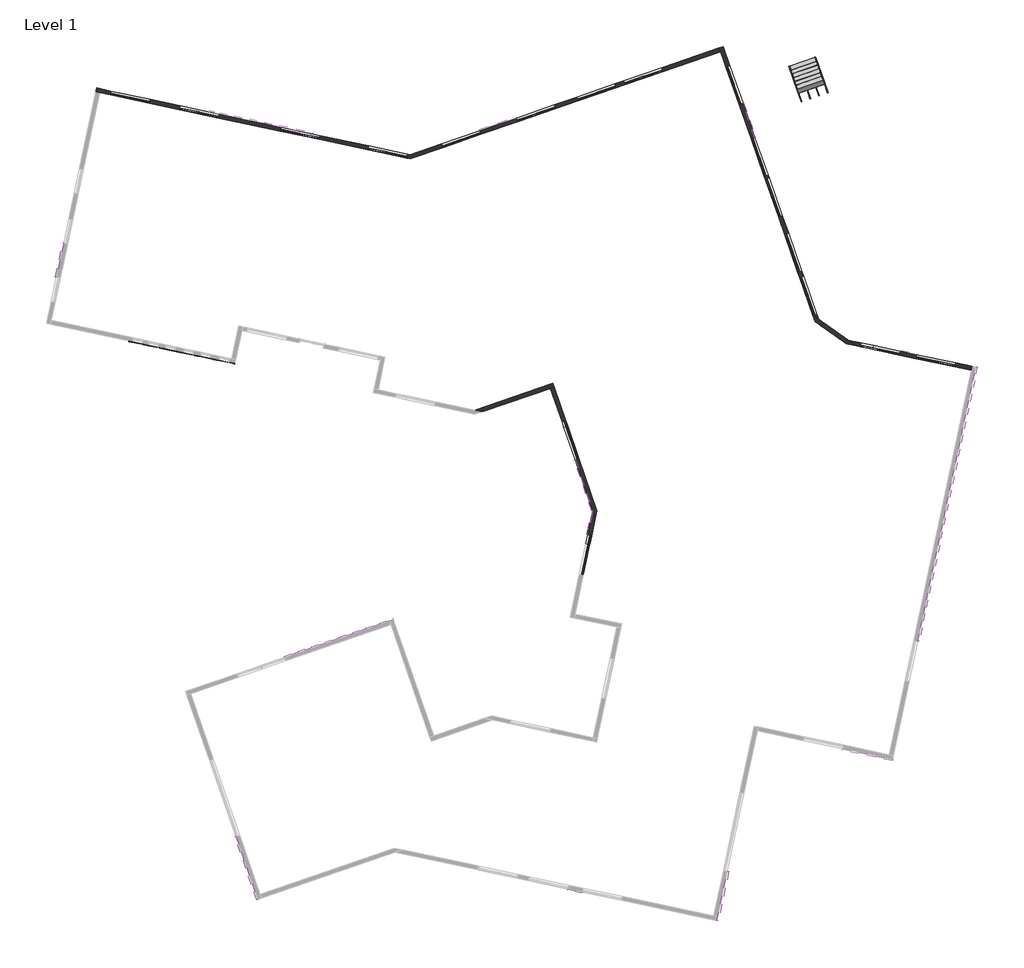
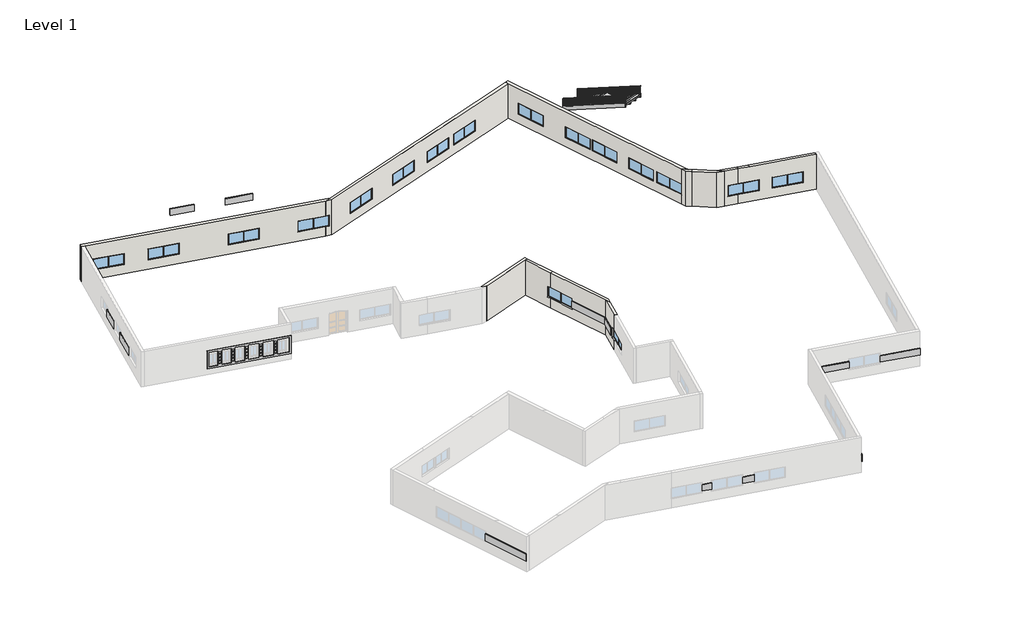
# One storey, part 2 of 2: 17 windows, 14 proxies, 11 walls, 4 members, 2 railings, 1 stair flight.
"""IFC4 building model written with IfcOpenShell, lengths in millimetres."""

from ifc_helpers import new_model, si_unit, frame, origin, place, context, project, spatial, polyline, outline, extrude, faceted_brep, transform, mapped, element, save
from components import generic_models_11_generic_models_11_6183a3db, generic_models_12_generic_models_12_c4f2799b, generic_models_15_generic_models_15_6c7800a2, generic_models_16_generic_models_16_a599c295, generic_models_18_generic_models_18_185bfeaa, generic_models_19_generic_models_19_e8d40234, generic_models_20_generic_models_20_587b93e4, generic_models_23_generic_models_23_e55d72dc, generic_models_24_generic_models_24_6f69fc4d, generic_models_25_generic_models_25_63c2ee15, generic_models_26_generic_models_26_2b0313ee, generic_models_27_generic_models_27_2a54866c, generic_models_28_generic_models_28_ffc0cb9e, generic_models_29_generic_models_29_9aea2b4d, railing_900mm_441bb158, railing_900mm_f19e5628, stair_flight_a10bc733, aluminum_exterior_window_2_wide_3886_1d34d12d

model = new_model("IFC4")

# Units and contexts
model_context = context("Model", 3, world=origin())
ifc_project = project(units=[si_unit("LENGTHUNIT", "METRE", prefix="MILLI")], contexts=[model_context])

# Site, building, storey
site = spatial("IfcSite", under=ifc_project)
building = spatial("IfcBuilding", under=site)
storey = spatial("IfcBuildingStorey", under=building, Name="Level 1", Elevation=0.0)

# Proxies
placement = place(None, origin())
generic_models_11_generic_models_11_shape = generic_models_11_generic_models_11_6183a3db(model_context)
element("IfcBuildingElementProxy", 1, Name="Generic Models 11 : Generic Models 11", ObjectType="Generic Models 11 : Generic Models 11", at=placement, inside=storey, context=model_context, shape_type="MappedRepresentation", body=[
    mapped(generic_models_11_generic_models_11_shape, transform((0.0, 0.0, 0.0), x_axis=(1.0, 0.0, 0.0), y_axis=(0.0, 1.0, 0.0), z_axis=(0.0, 0.0, 1.0))),
])
generic_models_12_generic_models_12_shape = generic_models_12_generic_models_12_c4f2799b(model_context)
element("IfcBuildingElementProxy", 2, Name="Generic Models 12 : Generic Models 12", ObjectType="Generic Models 12 : Generic Models 12", at=placement, inside=storey, context=model_context, shape_type="MappedRepresentation", body=[
    mapped(generic_models_12_generic_models_12_shape, transform((0.0, 0.0, 0.0), x_axis=(1.0, 0.0, 0.0), y_axis=(0.0, 1.0, 0.0), z_axis=(0.0, 0.0, 1.0))),
])
generic_models_15_generic_models_15_shape = generic_models_15_generic_models_15_6c7800a2(model_context)
element("IfcBuildingElementProxy", 3, Name="Generic Models 15 : Generic Models 15", ObjectType="Generic Models 15 : Generic Models 15", at=placement, inside=storey, context=model_context, shape_type="MappedRepresentation", body=[
    mapped(generic_models_15_generic_models_15_shape, transform((0.0, 0.0, 0.0), x_axis=(1.0, 0.0, 0.0), y_axis=(0.0, 1.0, 0.0), z_axis=(0.0, 0.0, 1.0))),
])
generic_models_16_generic_models_16_shape = generic_models_16_generic_models_16_a599c295(model_context)
element("IfcBuildingElementProxy", 4, Name="Generic Models 16 : Generic Models 16", ObjectType="Generic Models 16 : Generic Models 16", at=placement, inside=storey, context=model_context, shape_type="MappedRepresentation", body=[
    mapped(generic_models_16_generic_models_16_shape, transform((0.0, 0.0, 0.0), x_axis=(1.0, 0.0, 0.0), y_axis=(0.0, 1.0, 0.0), z_axis=(0.0, 0.0, 1.0))),
])
generic_models_18_generic_models_18_shape = generic_models_18_generic_models_18_185bfeaa(model_context)
element("IfcBuildingElementProxy", 5, Name="Generic Models 18 : Generic Models 18", ObjectType="Generic Models 18 : Generic Models 18", at=placement, inside=storey, context=model_context, shape_type="MappedRepresentation", body=[
    mapped(generic_models_18_generic_models_18_shape, transform((0.0, 0.0, 0.0), x_axis=(1.0, 0.0, 0.0), y_axis=(0.0, 1.0, 0.0), z_axis=(0.0, 0.0, 1.0))),
])
generic_models_19_generic_models_19_shape = generic_models_19_generic_models_19_e8d40234(model_context)
element("IfcBuildingElementProxy", 6, Name="Generic Models 19 : Generic Models 19", ObjectType="Generic Models 19 : Generic Models 19", at=placement, inside=storey, context=model_context, shape_type="MappedRepresentation", body=[
    mapped(generic_models_19_generic_models_19_shape, transform((0.0, 0.0, 0.0), x_axis=(1.0, 0.0, 0.0), y_axis=(0.0, 1.0, 0.0), z_axis=(0.0, 0.0, 1.0))),
])
generic_models_20_generic_models_20_shape = generic_models_20_generic_models_20_587b93e4(model_context)
element("IfcBuildingElementProxy", 7, Name="Generic Models 20 : Generic Models 20", ObjectType="Generic Models 20 : Generic Models 20", at=placement, inside=storey, context=model_context, shape_type="MappedRepresentation", body=[
    mapped(generic_models_20_generic_models_20_shape, transform((0.0, 0.0, 0.0), x_axis=(1.0, 0.0, 0.0), y_axis=(0.0, 1.0, 0.0), z_axis=(0.0, 0.0, 1.0))),
])
generic_models_23_generic_models_23_shape = generic_models_23_generic_models_23_e55d72dc(model_context)
element("IfcBuildingElementProxy", 8, Name="Generic Models 23 : Generic Models 23", ObjectType="Generic Models 23 : Generic Models 23", at=placement, inside=storey, context=model_context, shape_type="MappedRepresentation", body=[
    mapped(generic_models_23_generic_models_23_shape, transform((0.0, 0.0, 0.0), x_axis=(1.0, 0.0, 0.0), y_axis=(0.0, 1.0, 0.0), z_axis=(0.0, 0.0, 1.0))),
])
generic_models_24_generic_models_24_shape = generic_models_24_generic_models_24_6f69fc4d(model_context)
element("IfcBuildingElementProxy", 9, Name="Generic Models 24 : Generic Models 24", ObjectType="Generic Models 24 : Generic Models 24", at=placement, inside=storey, context=model_context, shape_type="MappedRepresentation", body=[
    mapped(generic_models_24_generic_models_24_shape, transform((0.0, 0.0, 0.0), x_axis=(1.0, 0.0, 0.0), y_axis=(0.0, 1.0, 0.0), z_axis=(0.0, 0.0, 1.0))),
])
generic_models_25_generic_models_25_shape = generic_models_25_generic_models_25_63c2ee15(model_context)
element("IfcBuildingElementProxy", 10, Name="Generic Models 25 : Generic Models 25", ObjectType="Generic Models 25 : Generic Models 25", at=placement, inside=storey, context=model_context, shape_type="MappedRepresentation", body=[
    mapped(generic_models_25_generic_models_25_shape, transform((0.0, 0.0, 0.0), x_axis=(1.0, 0.0, 0.0), y_axis=(0.0, 1.0, 0.0), z_axis=(0.0, 0.0, 1.0))),
])
generic_models_26_generic_models_26_shape = generic_models_26_generic_models_26_2b0313ee(model_context)
element("IfcBuildingElementProxy", 11, Name="Generic Models 26 : Generic Models 26", ObjectType="Generic Models 26 : Generic Models 26", at=placement, inside=storey, context=model_context, shape_type="MappedRepresentation", body=[
    mapped(generic_models_26_generic_models_26_shape, transform((0.0, 0.0, 0.0), x_axis=(1.0, 0.0, 0.0), y_axis=(0.0, 1.0, 0.0), z_axis=(0.0, 0.0, 1.0))),
])
generic_models_27_generic_models_27_shape = generic_models_27_generic_models_27_2a54866c(model_context)
element("IfcBuildingElementProxy", 12, Name="Generic Models 27 : Generic Models 27", ObjectType="Generic Models 27 : Generic Models 27", at=placement, inside=storey, context=model_context, shape_type="MappedRepresentation", body=[
    mapped(generic_models_27_generic_models_27_shape, transform((0.0, 0.0, 0.0), x_axis=(1.0, 0.0, 0.0), y_axis=(0.0, 1.0, 0.0), z_axis=(0.0, 0.0, 1.0))),
])
generic_models_28_generic_models_28_shape = generic_models_28_generic_models_28_ffc0cb9e(model_context)
element("IfcBuildingElementProxy", 13, Name="Generic Models 28 : Generic Models 28", ObjectType="Generic Models 28 : Generic Models 28", at=placement, inside=storey, context=model_context, shape_type="MappedRepresentation", body=[
    mapped(generic_models_28_generic_models_28_shape, transform((0.0, 0.0, 0.0), x_axis=(1.0, 0.0, 0.0), y_axis=(0.0, 1.0, 0.0), z_axis=(0.0, 0.0, 1.0))),
])
generic_models_29_generic_models_29_shape = generic_models_29_generic_models_29_9aea2b4d(model_context)
element("IfcBuildingElementProxy", 14, Name="Generic Models 29 : Generic Models 29", ObjectType="Generic Models 29 : Generic Models 29", at=placement, inside=storey, context=model_context, shape_type="MappedRepresentation", body=[
    mapped(generic_models_29_generic_models_29_shape, transform((0.0, 0.0, 0.0), x_axis=(1.0, 0.0, 0.0), y_axis=(0.0, 1.0, 0.0), z_axis=(0.0, 0.0, 1.0))),
])

# Members
element("IfcMember", 15, ObjectType="Stringer - Miscellaneous - 50 mm Width", at=placement, inside=storey, context=model_context, shape_type="SweptSolid", body=[
    extrude(outline(polyline([(201.242236, -399.9999999), (94.9866789, -188.8006828), (470.2571721, 0.0), (8507.6398583, 1e-07), (8708.8820944, -400.0), (201.242236, -399.9999999)])), frame((503083.952867, 37397.2472777, -211.3484493), z_axis=(0.9452094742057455, 0.32646446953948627, 0.0), x_axis=(0.2916355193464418, -0.8443695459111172, 0.4494316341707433)), (0.0, 0.0, 1.0), 50.0),
])
element("IfcMember", 16, ObjectType="Stringer - Miscellaneous - 50 mm Width", at=placement, inside=storey, context=model_context, shape_type="SweptSolid", body=[
    extrude(outline(polyline([(201.242236, -399.9999999), (94.9866789, -188.8006828), (470.257172, 0.0), (8507.6398583, 0.0), (8708.8820943, -400.0), (201.242236, -399.9999999)])), frame((501110.4189282, 36715.6113778, -211.3484493), z_axis=(0.9452094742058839, 0.3264644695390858, 0.0), x_axis=(0.2916355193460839, -0.8443695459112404, 0.4494316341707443)), (0.0, 0.0, 1.0), 50.0),
])
element("IfcMember", 17, ObjectType="Carriage - Miscellaneous - 50 mm Width", at=placement, inside=storey, context=model_context, shape_type="SweptSolid", body=[
    extrude(outline(polyline([(2306.5382459, -400.0), (2252.5909255, -400.0), (2184.3486311, -264.3579085), (1916.3542121, -399.1873987), (1837.2151635, -241.8863268), (1569.2207447, -376.715817), (1490.0816961, -219.4147451), (1222.0872771, -354.2442354), (1142.9482285, -196.9431634), (874.9538096, -331.7726537), (795.8147609, -174.4715817), (527.8203421, -309.3010719), (448.6812935, -151.9999999), (180.6868745, -286.8294902), (124.0194076, -174.1941548), (470.2571721, 0.0), (5452.3951983, 0.0), (4657.3334699, -400.0), (4267.5582604, -399.9999999), (4267.1494363, -399.1873988), (4265.5342659, -400.0), (3931.7303713, -400.0), (3920.0159687, -376.715817), (3873.7350619, -399.9999999), (3595.9024821, -400.0), (3572.8825011, -354.2442353), (3481.9358579, -399.9999999), (3260.074593, -400.0), (3225.7490337, -331.7726536), (3090.1366539, -400.0), (2924.2467038, -399.9999999), (2878.6155661, -309.301072), (2698.3374498, -400.0), (2588.4188146, -400.0), (2531.4820986, -286.8294903), (2306.5382459, -400.0)])), frame((501776.1403201, 36945.5438817, -211.3484493), z_axis=(0.9452094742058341, 0.32646446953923, 0.0), x_axis=(0.29163551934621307, -0.8443695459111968, 0.44943163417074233)), (0.0, 0.0, 1.0), 50.0),
    extrude(outline(polyline([(8507.6398583, 1e-07), (8602.7661124, -189.0781098), (8363.8044222, -309.3010719), (8284.6653735, -152.0), (8016.6709547, -286.8294902), (7937.531906, -129.5284182), (7669.5374871, -264.3579085), (7590.3984385, -107.0568365), (7322.4040196, -241.8863268), (7243.2649709, -84.5852549), (6975.2705521, -219.4147451), (6896.1315035, -62.1136732), (6628.1370845, -196.9431634), (6548.9980359, -39.6420914), (6281.003617, -174.4715817), (6201.8645683, -17.1705097), (5933.8701495, -151.9999999), (5857.3980998, 0.0), (8507.6398583, 1e-07)])), frame((501776.1403201, 36945.5438817, -211.3484493), z_axis=(0.9452094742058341, 0.32646446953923, 0.0), x_axis=(0.29163551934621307, -0.8443695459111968, 0.44943163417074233)), (0.0, 0.0, 1.0), 50.0),
    extrude(outline(polyline([(5521.5702106, 1e-07), (5844.1944023, 0.0), (5586.736682, -129.5284183), (5521.5702106, 1e-07)])), frame((501776.1403201, 36945.5438817, -211.3484493), z_axis=(0.9452094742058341, 0.32646446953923, 0.0), x_axis=(0.29163551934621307, -0.8443695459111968, 0.44943163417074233)), (0.0, 0.0, 1.0), 50.0),
])
element("IfcMember", 18, ObjectType="Carriage - Miscellaneous - 50 mm Width", at=placement, inside=storey, context=model_context, shape_type="SweptSolid", body=[
    extrude(outline(polyline([(2306.5382459, -400.0), (2252.5909255, -400.0), (2184.3486311, -264.3579085), (1916.3542122, -399.1873987), (1837.2151635, -241.8863268), (1569.2207447, -376.715817), (1490.0816961, -219.4147451), (1222.0872771, -354.2442354), (1142.9482285, -196.9431634), (874.9538096, -331.7726537), (795.8147609, -174.4715816), (527.8203421, -309.3010719), (448.6812935, -151.9999999), (180.6868746, -286.8294902), (124.0194077, -174.1941547), (470.2571721, 0.0), (5452.3951983, 0.0), (4657.3334699, -400.0), (4267.5582604, -400.0), (4267.1494362, -399.1873988), (4265.5342659, -400.0), (3931.7303713, -400.0), (3920.0159687, -376.715817), (3873.7350619, -399.9999999), (3595.9024821, -400.0), (3572.8825011, -354.2442353), (3481.9358579, -399.9999999), (3260.074593, -400.0), (3225.7490337, -331.7726536), (3090.1366539, -400.0), (2924.2467038, -399.9999999), (2878.6155661, -309.301072), (2698.3374498, -400.0), (2588.4188146, -400.0), (2531.4820986, -286.8294903), (2306.5382459, -400.0)])), frame((502418.2314751, 37167.3147738, -211.3484493), z_axis=(0.9452094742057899, 0.3264644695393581, 0.0), x_axis=(0.2916355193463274, -0.8443695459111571, 0.4494316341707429)), (0.0, 0.0, 1.0), 50.0),
    extrude(outline(polyline([(8507.6398583, 1e-07), (8602.7661124, -189.0781098), (8363.8044222, -309.3010719), (8284.6653735, -152.0), (8016.6709546, -286.8294903), (7937.5319059, -129.5284183), (7669.5374871, -264.3579085), (7590.3984385, -107.0568365), (7322.4040196, -241.8863268), (7243.2649709, -84.5852549), (6975.2705521, -219.4147451), (6896.1315035, -62.1136732), (6628.1370846, -196.9431634), (6548.9980359, -39.6420914), (6281.003617, -174.4715817), (6201.8645683, -17.1705097), (5933.8701495, -151.9999999), (5857.3980999, 0.0), (8507.6398583, 1e-07)])), frame((502418.2314751, 37167.3147738, -211.3484493), z_axis=(0.9452094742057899, 0.3264644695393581, 0.0), x_axis=(0.2916355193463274, -0.8443695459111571, 0.4494316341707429)), (0.0, 0.0, 1.0), 50.0),
    extrude(outline(polyline([(5521.5702106, 1e-07), (5844.1944023, 0.0), (5586.736682, -129.5284183), (5521.5702106, 1e-07)])), frame((502418.2314751, 37167.3147738, -211.3484493), z_axis=(0.9452094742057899, 0.3264644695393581, 0.0), x_axis=(0.2916355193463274, -0.8443695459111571, 0.4494316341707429)), (0.0, 0.0, 1.0), 50.0),
])

# Railings
railing_900mm_shape = railing_900mm_441bb158(model_context)
element("IfcRailing", 19, ObjectType="900mm", at=placement, inside=storey, context=model_context, shape_type="MappedRepresentation", body=[
    mapped(railing_900mm_shape, transform((0.0, 0.0, 0.0), x_axis=(1.0, 0.0, 0.0), y_axis=(0.0, 1.0, 0.0), z_axis=(0.0, 0.0, 1.0))),
])
railing_900mm_2_shape = railing_900mm_f19e5628(model_context)
element("IfcRailing", 20, ObjectType="900mm", at=placement, inside=storey, context=model_context, shape_type="MappedRepresentation", body=[
    mapped(railing_900mm_2_shape, transform((0.0, 0.0, 0.0), x_axis=(1.0, 0.0, 0.0), y_axis=(0.0, 1.0, 0.0), z_axis=(0.0, 0.0, 1.0))),
])

# Stair flight
stair_flight_shape = stair_flight_a10bc733(model_context)
element("IfcStairFlight", 21, ObjectType="Wood Steps with 50 mm Tread 20 mm Nosing 13 mm Riser", at=placement, inside=storey, context=model_context, shape_type="MappedRepresentation", body=[
    mapped(stair_flight_shape, transform((0.0, 0.0, 0.0), x_axis=(1.0, 0.0, 0.0), y_axis=(0.0, 1.0, 0.0), z_axis=(0.0, 0.0, 1.0))),
])

# Walls
element("IfcWall", 22, ObjectType="0.3", at=placement, inside=storey, context=model_context, shape_type="Brep", body=[
    faceted_brep([(483465.5074474, 13018.4815424, 0.0), (477610.7570269, 10996.318157, 0.0), (477610.7570269, 10996.318157, 3900.0), (483465.5074474, 13018.4815424, 3900.0), (483563.4467882, 12734.9187002, 0.0), (483563.4467882, 12734.9187002, 3900.0), (483279.883946, 12636.9793593, 3900.0), (478179.6122647, 10875.4042435, 3900.0), (478179.6122647, 10875.4042435, 0.0), (483279.883946, 12636.9793593, 0.0)], [[[0, 1, 2, 3]], [[4, 5, 6, 7, 8, 9]], [[1, 0, 4, 9, 8]], [[2, 1, 8, 7]], [[0, 3, 5, 4]], [[3, 2, 7, 6, 5]]]),
])
element("IfcWall", 23, ObjectType="0.3", at=placement, inside=storey, context=model_context, shape_type="SweptSolid", body=[
    extrude(outline(polyline([(0.0, 0.0), (3059.5079287, 0.0), (3059.5079287, -1016.0), (2651.8643064, -1016.0), (2651.8643064, -2235.2), (3059.5079287, -2235.2), (3059.5079287, -3900.0), (0.0, -3900.0), (0.0, 0.0)])), frame((483279.883946, 12636.9793593, 0.0), z_axis=(0.9452094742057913, 0.3264644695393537, 0.0), x_axis=(0.3264644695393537, -0.9452094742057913, 0.0)), (0.0, 0.0, 1.0), 300.0),
])
element("IfcWall", 24, ObjectType="0.3", at=placement, inside=storey, context=model_context, shape_type="Brep", body=[
    faceted_brep([(486760.764421, 3477.7553622, 0.0), (484562.2674212, 9843.0428196, 0.0), (484562.2674212, 9843.0428196, 1016.0), (485408.5796709, 7392.7230108, 1016.0), (485408.5796709, 7392.7230108, 2235.2), (484562.2674212, 9843.0428196, 2235.2), (484562.2674212, 9843.0428196, 3900.0), (486760.764421, 3477.7553622, 3900.0), (484278.7045789, 9745.1034787, 0.0), (486449.9905894, 3458.5997401, 0.0), (486639.8505076, 2908.9001244, 0.0), (486639.8505076, 2908.9001244, 3900.0), (486449.9905894, 3458.5997401, 3900.0), (484278.7045789, 9745.1034787, 3900.0), (484278.7045789, 9745.1034787, 2235.2), (485125.0168287, 7294.78367, 2235.2), (485125.0168287, 7294.78367, 1016.0), (484278.7045789, 9745.1034787, 1016.0)], [[[0, 1, 2, 3, 4, 5, 6, 7]], [[8, 9, 10, 11, 12, 13, 14, 15, 16, 17]], [[1, 0, 10, 9, 8]], [[1, 8, 17, 2]], [[13, 6, 5, 14]], [[0, 7, 11, 10]], [[11, 7, 6, 13, 12]], [[15, 4, 3, 16]], [[16, 3, 2, 17]], [[4, 15, 14, 5]]]),
])
element("IfcWall", 25, ObjectType="0.3", at=placement, inside=storey, context=model_context, shape_type="Brep", body=[
    faceted_brep([(486220.9153335, 937.9650907, 0.0), (486639.8505076, 2908.9001244, 0.0), (486639.8505076, 2908.9001244, 3900.0), (486220.9153335, 937.9650907, 3900.0), (486220.9153335, 937.9650907, 2235.2), (486365.7207347, 1619.2209412, 2235.2), (486365.7207347, 1619.2209412, 1016.0), (486220.9153335, 937.9650907, 1016.0), (486449.9905894, 3458.5997401, 0.0), (485927.4710533, 1000.338598, 0.0), (485927.4710533, 1000.338598, 1016.0), (486072.2764545, 1681.5944484, 1016.0), (486072.2764545, 1681.5944484, 2235.2), (485927.4710533, 1000.338598, 2235.2), (485927.4710533, 1000.338598, 3900.0), (486449.9905894, 3458.5997401, 3900.0)], [[[0, 1, 2, 3, 4, 5, 6, 7]], [[8, 9, 10, 11, 12, 13, 14, 15]], [[1, 0, 9, 8]], [[9, 0, 7, 10]], [[3, 14, 13, 4]], [[2, 1, 8, 15]], [[3, 2, 15, 14]], [[6, 11, 10, 7]], [[11, 6, 5, 12]], [[12, 5, 4, 13]]]),
])
element("IfcWall", 26, ObjectType="0.3", at=placement, inside=storey, context=model_context, shape_type="Brep", body=[
    faceted_brep([(507378.3487578, 15550.0641243, 0.0), (514754.395508, 13982.2369884, 0.0), (514754.395508, 13982.2369884, 3900.0), (508560.4360348, 15298.8037171, 3900.0), (507378.3487578, 15550.0641243, 3900.0), (507378.3487578, 15550.0641243, 2235.2), (509374.5837039, 15125.7512879, 2235.2), (509374.5837039, 15125.7512879, 1016.0), (507378.3487578, 15550.0641243, 1016.0), (510597.2682048, 14865.8616744, 2235.2), (513531.711007, 14242.1266019, 2235.2), (513531.711007, 14242.1266019, 1016.0), (510597.2682048, 14865.8616744, 1016.0), (514816.7690152, 14275.6812686, 0.0), (507440.7222651, 15843.5084045, 0.0), (507440.7222651, 15843.5084045, 1016.0), (509436.9572112, 15419.1955681, 1016.0), (509436.9572112, 15419.1955681, 2235.2), (507440.7222651, 15843.5084045, 2235.2), (507440.7222651, 15843.5084045, 3900.0), (508446.1115484, 15629.8063153, 3900.0), (514816.7690152, 14275.6812686, 3900.0), (510659.6417121, 15159.3059546, 2235.2), (510659.6417121, 15159.3059546, 1016.0), (513594.0845143, 14535.5708821, 1016.0), (513594.0845143, 14535.5708821, 2235.2)], [[[0, 1, 2, 3, 4, 5, 6, 7, 8], [9, 10, 11, 12]], [[13, 14, 15, 16, 17, 18, 19, 20, 21], [22, 23, 24, 25]], [[1, 0, 14, 13]], [[14, 0, 8, 15]], [[4, 19, 18, 5]], [[2, 1, 13, 21]], [[7, 16, 15, 8]], [[16, 7, 6, 17]], [[17, 6, 5, 18]], [[23, 22, 9, 12]], [[24, 23, 12, 11]], [[25, 24, 11, 10]], [[22, 25, 10, 9]], [[2, 21, 20, 3]], [[19, 4, 3, 20]]]),
])
element("IfcWall", 27, ObjectType="0.3", at=placement, inside=storey, context=model_context, shape_type="Brep", body=[
    faceted_brep([(506154.0710443, 15810.2923856, 0.0), (507378.3487578, 15550.0641243, 0.0), (507378.3487578, 15550.0641243, 1016.0), (506440.1409017, 15749.4863603, 1016.0), (506440.1409017, 15749.4863603, 2235.2), (507378.3487578, 15550.0641243, 2235.2), (507378.3487578, 15550.0641243, 3900.0), (506154.0710443, 15810.2923856, 3900.0), (507440.7222651, 15843.5084045, 0.0), (505534.6529907, 16248.6559358, 0.0), (505534.6529907, 16248.6559358, 3900.0), (507440.7222651, 15843.5084045, 3900.0), (507440.7222651, 15843.5084045, 2235.2), (506502.514409, 16042.9306406, 2235.2), (506502.514409, 16042.9306406, 1016.0), (507440.7222651, 15843.5084045, 1016.0)], [[[0, 1, 2, 3, 4, 5, 6, 7]], [[8, 9, 10, 11, 12, 13, 14, 15]], [[1, 0, 9, 8]], [[1, 8, 15, 2]], [[11, 6, 5, 12]], [[0, 7, 10, 9]], [[7, 6, 11, 10]], [[13, 4, 3, 14]], [[14, 3, 2, 15]], [[4, 13, 12, 5]]]),
])
element("IfcWall", 28, ObjectType="0.3", at=placement, inside=storey, context=model_context, shape_type="Brep", body=[
    faceted_brep([(503507.7675496, 17315.5606942, 0.0), (505411.8114684, 15968.0645289, 0.0), (505411.8114684, 15968.0645289, 3900.0), (503507.7675496, 17315.5606942, 3900.0), (503336.7536813, 17804.1142221, 0.0), (503336.7536813, 17804.1142221, 3900.0), (505534.6529907, 16248.6559358, 3900.0), (506154.0710443, 15810.2923856, 3900.0), (506154.0710443, 15810.2923856, 0.0), (505534.6529907, 16248.6559358, 0.0)], [[[0, 1, 2, 3]], [[4, 5, 6, 7, 8, 9]], [[1, 0, 4, 9, 8]], [[2, 1, 8, 7]], [[0, 3, 5, 4]], [[3, 2, 7, 6, 5]]]),
])
element("IfcWall", 29, ObjectType="0.3", at=placement, inside=storey, context=model_context, shape_type="Brep", body=[
    faceted_brep([(503085.2513611, 17614.5763514, 0.0), (503513.4465332, 17311.5416647, 0.0), (503513.4465332, 17311.5416647, 3900.0), (503085.2513611, 17614.5763514, 3900.0), (503686.7488127, 17556.4218802, 0.0), (503336.7536813, 17804.1142221, 0.0), (502914.2374928, 18103.1298793, 0.0), (502914.2374928, 18103.1298793, 1016.0), (502930.6468326, 18091.5169526, 1016.0), (502930.6468326, 18091.5169526, 2235.2), (502914.2374928, 18103.1298793, 2235.2), (502914.2374928, 18103.1298793, 3900.0), (503336.7536813, 17804.1142221, 3900.0), (503686.7488127, 17556.4218802, 3900.0), (502919.6499332, 18087.6675847, 2235.2), (502919.6499332, 18087.6675847, 1016.0)], [[[0, 1, 2, 3]], [[4, 5, 6, 7, 8, 9, 10, 11, 12, 13]], [[1, 0, 6, 5, 4]], [[2, 1, 4, 13]], [[0, 3, 11, 10, 14, 15, 7, 6]], [[3, 2, 13, 12, 11]], [[15, 8, 7]], [[8, 15, 14, 9]], [[9, 14, 10]]]),
])
element("IfcWall", 30, ObjectType="0.3", at=placement, inside=storey, context=model_context, shape_type="Brep", body=[
    faceted_brep([(495911.4257826, 38108.8077884, 0.0), (496010.5421593, 37825.6514807, 0.0), (502914.2374928, 18103.1298793, 0.0), (502914.2374928, 18103.1298793, 1016.0), (501928.4947052, 20919.2062678, 1016.0), (501928.4947052, 20919.2062678, 2235.2), (502914.2374928, 18103.1298793, 2235.2), (502914.2374928, 18103.1298793, 3900.0), (496010.5421593, 37825.6514807, 3900.0), (495911.4257826, 38108.8077884, 3900.0), (496411.0639363, 36681.4382706, 2235.2), (497402.2191643, 33849.8995875, 2235.2), (497402.2191643, 33849.8995875, 1016.0), (496411.0639363, 36681.4382706, 1016.0), (498294.2588694, 31301.5147726, 2235.2), (499285.4140974, 28469.9760895, 2235.2), (499285.4140974, 28469.9760895, 1016.0), (498294.2588694, 31301.5147726, 1016.0), (499351.4911126, 28281.206844, 2235.2), (500342.6463405, 25449.6681608, 2235.2), (500342.6463405, 25449.6681608, 1016.0), (499351.4911126, 28281.206844, 1016.0), (500805.1854469, 24128.283442, 2235.2), (501796.3406748, 21296.7447589, 2235.2), (501796.3406748, 21296.7447589, 1016.0), (500805.1854469, 24128.283442, 1016.0), (503336.7536813, 17804.1142221, 0.0), (496194.9910677, 38206.747973, 0.0), (496194.9910677, 38206.747973, 3900.0), (503336.7536813, 17804.1142221, 3900.0), (496694.2178046, 36780.5537934, 2235.2), (496694.2178046, 36780.5537934, 1016.0), (497685.3730326, 33949.0151103, 1016.0), (497685.3730326, 33949.0151103, 2235.2), (498577.4127377, 31400.6302954, 2235.2), (498577.4127377, 31400.6302954, 1016.0), (499568.5679657, 28569.0916123, 1016.0), (499568.5679657, 28569.0916123, 2235.2), (499634.6449809, 28380.3223667, 2235.2), (499634.6449809, 28380.3223667, 1016.0), (500625.8002088, 25548.7836836, 1016.0), (500625.8002088, 25548.7836836, 2235.2), (501088.3393152, 24227.3989648, 2235.2), (501088.3393152, 24227.3989648, 1016.0), (502079.4945432, 21395.8602817, 1016.0), (502079.4945432, 21395.8602817, 2235.2), (502211.6485735, 21018.3217906, 2235.2), (502211.6485735, 21018.3217906, 1016.0), (503202.8038015, 18186.7831075, 1016.0), (503202.8038015, 18186.7831075, 2235.2), (502930.6468326, 18091.5169526, 2235.2), (502930.6468326, 18091.5169526, 1016.0)], [[[0, 1, 2, 3, 4, 5, 6, 7, 8, 9], [10, 11, 12, 13], [14, 15, 16, 17], [18, 19, 20, 21], [22, 23, 24, 25]], [[26, 27, 28, 29], [30, 31, 32, 33], [34, 35, 36, 37], [38, 39, 40, 41], [42, 43, 44, 45], [46, 47, 48, 49]], [[2, 1, 0, 27, 26]], [[2, 26, 29, 7, 6, 50, 51, 3]], [[0, 9, 28, 27]], [[9, 8, 7, 29, 28]], [[31, 30, 10, 13]], [[32, 31, 13, 12]], [[33, 32, 12, 11]], [[30, 33, 11, 10]], [[35, 34, 14, 17]], [[36, 35, 17, 16]], [[37, 36, 16, 15]], [[34, 37, 15, 14]], [[39, 38, 18, 21]], [[40, 39, 21, 20]], [[41, 40, 20, 19]], [[38, 41, 19, 18]], [[43, 42, 22, 25]], [[44, 43, 25, 24]], [[45, 44, 24, 23]], [[42, 45, 23, 22]], [[46, 5, 4, 47]], [[47, 4, 3, 51, 48]], [[48, 51, 50, 49]], [[5, 46, 49, 50, 6]]]),
])
element("IfcWall", 31, ObjectType="0.3", at=placement, inside=storey, context=model_context, shape_type="Brep", body=[
    faceted_brep([(472802.0140944, 29809.693103, 0.0), (496010.5421593, 37825.6514807, 0.0), (496010.5421593, 37825.6514807, 3900.0), (472802.0140944, 29809.693103, 3900.0), (475239.5630804, 30651.5944575, 2235.2), (478075.191503, 31630.9878662, 2235.2), (478075.191503, 31630.9878662, 1016.0), (475239.5630804, 30651.5944575, 1016.0), (480816.2989782, 32577.7348278, 2235.2), (483651.9274008, 33557.1282364, 2235.2), (483651.9274008, 33557.1282364, 1016.0), (480816.2989782, 32577.7348278, 1016.0), (485353.3044544, 34144.7642816, 2235.2), (488188.932877, 35124.1576902, 2235.2), (488188.932877, 35124.1576902, 1016.0), (485353.3044544, 34144.7642816, 1016.0), (488850.5795089, 35352.6828189, 2235.2), (491686.2079315, 36332.0762275, 2235.2), (491686.2079315, 36332.0762275, 1016.0), (488850.5795089, 35352.6828189, 1016.0), (495911.4257826, 38108.8077884, 0.0), (472782.8584723, 30120.4669346, 0.0), (472233.1588566, 29930.6070164, 0.0), (472233.1588566, 29930.6070164, 1016.0), (472583.3094893, 30051.5450134, 1016.0), (472583.3094893, 30051.5450134, 2235.2), (472233.1588566, 29930.6070164, 2235.2), (472233.1588566, 29930.6070164, 3900.0), (472782.8584723, 30120.4669346, 3900.0), (495911.4257826, 38108.8077884, 3900.0), (475141.6237395, 30935.1572998, 2235.2), (475141.6237395, 30935.1572998, 1016.0), (477977.2521621, 31914.5507084, 1016.0), (477977.2521621, 31914.5507084, 2235.2), (480718.3596373, 32861.2976701, 2235.2), (480718.3596373, 32861.2976701, 1016.0), (483553.9880599, 33840.6910787, 1016.0), (483553.9880599, 33840.6910787, 2235.2), (485255.3651135, 34428.3271239, 2235.2), (485255.3651135, 34428.3271239, 1016.0), (488090.9935361, 35407.7205325, 1016.0), (488090.9935361, 35407.7205325, 2235.2), (488752.6401681, 35636.2456612, 2235.2), (488752.6401681, 35636.2456612, 1016.0), (491588.2685907, 36615.6390698, 1016.0), (491588.2685907, 36615.6390698, 2235.2), (472543.5784755, 29864.6252895, 2235.2), (472543.5784755, 29864.6252895, 1016.0)], [[[0, 1, 2, 3], [4, 5, 6, 7], [8, 9, 10, 11], [12, 13, 14, 15], [16, 17, 18, 19]], [[20, 21, 22, 23, 24, 25, 26, 27, 28, 29], [30, 31, 32, 33], [34, 35, 36, 37], [38, 39, 40, 41], [42, 43, 44, 45]], [[1, 0, 22, 21, 20]], [[2, 1, 20, 29]], [[0, 3, 27, 26, 46, 47, 23, 22]], [[27, 3, 2, 29, 28]], [[47, 24, 23]], [[24, 47, 46, 25]], [[25, 46, 26]], [[31, 30, 4, 7]], [[32, 31, 7, 6]], [[33, 32, 6, 5]], [[30, 33, 5, 4]], [[35, 34, 8, 11]], [[36, 35, 11, 10]], [[37, 36, 10, 9]], [[34, 37, 9, 8]], [[39, 38, 12, 15]], [[40, 39, 15, 14]], [[41, 40, 14, 13]], [[38, 41, 13, 12]], [[43, 42, 16, 19]], [[44, 43, 19, 18]], [[45, 44, 18, 17]], [[42, 45, 17, 16]]]),
])
element("IfcWall", 32, ObjectType="0.3", at=placement, inside=storey, context=model_context, shape_type="Brep", body=[
    faceted_brep([(449263.665578, 34812.923531, 0.0), (449557.1098582, 34750.5500238, 0.0), (472233.1588566, 29930.6070164, 0.0), (472233.1588566, 29930.6070164, 1016.0), (469609.1356733, 30488.360362, 1016.0), (469609.1356733, 30488.360362, 2235.2), (472233.1588566, 29930.6070164, 2235.2), (472233.1588566, 29930.6070164, 3900.0), (449557.1098582, 34750.5500238, 3900.0), (449263.665578, 34812.923531, 3900.0), (450339.6279388, 34584.2206711, 2235.2), (453274.070741, 33960.4855986, 2235.2), (453274.070741, 33960.4855986, 1016.0), (450339.6279388, 34584.2206711, 1016.0), (455523.8102227, 33482.2887098, 2235.2), (458458.2530249, 32858.5536373, 2235.2), (458458.2530249, 32858.5536373, 1016.0), (455523.8102227, 33482.2887098, 1016.0), (463055.5467483, 31881.3686905, 2235.2), (465989.9895505, 31257.633618, 2235.2), (465989.9895505, 31257.633618, 1016.0), (463055.5467483, 31881.3686905, 1016.0), (472782.8584723, 30120.4669346, 0.0), (449326.0390852, 35106.3678112, 0.0), (449326.0390852, 35106.3678112, 3900.0), (472782.8584723, 30120.4669346, 3900.0), (450402.0014461, 34877.6649513, 2235.2), (450402.0014461, 34877.6649513, 1016.0), (453336.4442483, 34253.9298789, 1016.0), (453336.4442483, 34253.9298789, 2235.2), (455586.1837299, 33775.73299, 2235.2), (455586.1837299, 33775.73299, 1016.0), (458520.6265321, 33151.9979175, 1016.0), (458520.6265321, 33151.9979175, 2235.2), (463117.9202556, 32174.8129707, 2235.2), (463117.9202556, 32174.8129707, 1016.0), (466052.3630578, 31551.0778982, 1016.0), (466052.3630578, 31551.0778982, 2235.2), (469671.5091805, 30781.8046422, 2235.2), (469671.5091805, 30781.8046422, 1016.0), (472605.9519827, 30158.0695698, 1016.0), (472605.9519827, 30158.0695698, 2235.2), (472583.3094893, 30051.5450134, 2235.2), (472583.3094893, 30051.5450134, 1016.0)], [[[0, 1, 2, 3, 4, 5, 6, 7, 8, 9], [10, 11, 12, 13], [14, 15, 16, 17], [18, 19, 20, 21]], [[22, 23, 24, 25], [26, 27, 28, 29], [30, 31, 32, 33], [34, 35, 36, 37], [38, 39, 40, 41]], [[2, 1, 0, 23, 22]], [[2, 22, 25, 7, 6, 42, 43, 3]], [[0, 9, 24, 23]], [[9, 8, 7, 25, 24]], [[27, 26, 10, 13]], [[28, 27, 13, 12]], [[29, 28, 12, 11]], [[26, 29, 11, 10]], [[31, 30, 14, 17]], [[32, 31, 17, 16]], [[33, 32, 16, 15]], [[30, 33, 15, 14]], [[35, 34, 18, 21]], [[36, 35, 21, 20]], [[37, 36, 20, 19]], [[34, 37, 19, 18]], [[38, 5, 4, 39]], [[39, 4, 3, 43, 40]], [[40, 43, 42, 41]], [[5, 38, 41, 42, 6]]]),
])

# Windows
aluminum_exterior_window_2_wide_3886_shape = aluminum_exterior_window_2_wide_3886_1d34d12d(model_context)
element("IfcWindow", 33, ObjectType="Aluminum_Exterior_Window_-_2_Wide_3886 : 72\"W. x 48\"H. 2", at=placement, inside=storey, context=model_context, shape_type="MappedRepresentation", body=[
    mapped(aluminum_exterior_window_2_wide_3886_shape, transform((485907.8497405, 314.3020655, 0.0), x_axis=(-0.20791169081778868, -0.9781476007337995, 0.0), y_axis=(0.9781476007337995, -0.20791169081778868, 0.0), z_axis=(0.0, 0.0, 1.0))),
])
element("IfcWindow", 34, ObjectType="Aluminum_Exterior_Window_-_2_Wide_3886 : 72\"W. x 48\"H. 2", at=placement, inside=storey, context=model_context, shape_type="MappedRepresentation", body=[
    mapped(aluminum_exterior_window_2_wide_3886_shape, transform((484710.0810837, 8874.26236, 0.0), x_axis=(0.32646446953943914, -0.9452094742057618, 0.0), y_axis=(0.9452094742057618, 0.32646446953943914, 0.0), z_axis=(0.0, 0.0, 1.0))),
])
element("IfcWindow", 35, ObjectType="Aluminum_Exterior_Window_-_2_Wide_3886 : 72\"W. x 48\"H. 2", at=placement, inside=storey, context=model_context, shape_type="MappedRepresentation", body=[
    mapped(aluminum_exterior_window_2_wide_3886_shape, transform((451969.1518653, 34418.3565929, 0.0), x_axis=(-0.9781476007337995, 0.20791169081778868, 0.0), y_axis=(-0.20791169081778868, -0.9781476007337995, 0.0), z_axis=(0.0, 0.0, 1.0))),
])
element("IfcWindow", 36, ObjectType="Aluminum_Exterior_Window_-_2_Wide_3886 : 72\"W. x 48\"H. 2", at=placement, inside=storey, context=model_context, shape_type="MappedRepresentation", body=[
    mapped(aluminum_exterior_window_2_wide_3886_shape, transform((457153.3341492, 33316.4246315, 0.0), x_axis=(-0.9781476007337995, 0.20791169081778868, 0.0), y_axis=(-0.20791169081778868, -0.9781476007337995, 0.0), z_axis=(0.0, 0.0, 1.0))),
])
element("IfcWindow", 37, ObjectType="Aluminum_Exterior_Window_-_2_Wide_3886 : 72\"W. x 48\"H. 2", at=placement, inside=storey, context=model_context, shape_type="MappedRepresentation", body=[
    mapped(aluminum_exterior_window_2_wide_3886_shape, transform((464685.0706749, 31715.5046122, 0.0), x_axis=(-0.9781476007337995, 0.20791169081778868, 0.0), y_axis=(-0.20791169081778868, -0.9781476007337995, 0.0), z_axis=(0.0, 0.0, 1.0))),
])
element("IfcWindow", 38, ObjectType="Aluminum_Exterior_Window_-_2_Wide_3886 : 72\"W. x 48\"H. 2", at=placement, inside=storey, context=model_context, shape_type="MappedRepresentation", body=[
    mapped(aluminum_exterior_window_2_wide_3886_shape, transform((471238.6595998, 30322.4962838, 0.0), x_axis=(-0.9781476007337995, 0.20791169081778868, 0.0), y_axis=(-0.20791169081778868, -0.9781476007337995, 0.0), z_axis=(0.0, 0.0, 1.0))),
])
element("IfcWindow", 39, ObjectType="Aluminum_Exterior_Window_-_2_Wide_3886 : 72\"W. x 48\"H. 2", at=placement, inside=storey, context=model_context, shape_type="MappedRepresentation", body=[
    mapped(aluminum_exterior_window_2_wide_3886_shape, transform((476721.1024295, 31350.0930448, 0.0), x_axis=(-0.9452094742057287, -0.3264644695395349, 0.0), y_axis=(0.3264644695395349, -0.9452094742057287, 0.0), z_axis=(0.0, 0.0, 1.0))),
])
element("IfcWindow", 40, ObjectType="Aluminum_Exterior_Window_-_2_Wide_3886 : 72\"W. x 48\"H. 2", at=placement, inside=storey, context=model_context, shape_type="MappedRepresentation", body=[
    mapped(aluminum_exterior_window_2_wide_3886_shape, transform((482297.8383273, 33276.233415, 0.0), x_axis=(-0.9452094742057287, -0.3264644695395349, 0.0), y_axis=(0.3264644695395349, -0.9452094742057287, 0.0), z_axis=(0.0, 0.0, 1.0))),
])
element("IfcWindow", 41, ObjectType="Aluminum_Exterior_Window_-_2_Wide_3886 : 72\"W. x 48\"H. 2", at=placement, inside=storey, context=model_context, shape_type="MappedRepresentation", body=[
    mapped(aluminum_exterior_window_2_wide_3886_shape, transform((486834.8438035, 34843.2628688, 0.0), x_axis=(-0.9452094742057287, -0.3264644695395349, 0.0), y_axis=(0.3264644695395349, -0.9452094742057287, 0.0), z_axis=(0.0, 0.0, 1.0))),
])
element("IfcWindow", 42, ObjectType="Aluminum_Exterior_Window_-_2_Wide_3886 : 72\"W. x 48\"H. 2", at=placement, inside=storey, context=model_context, shape_type="MappedRepresentation", body=[
    mapped(aluminum_exterior_window_2_wide_3886_shape, transform((490332.1188581, 36051.1814061, 0.0), x_axis=(-0.9452094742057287, -0.3264644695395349, 0.0), y_axis=(0.3264644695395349, -0.9452094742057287, 0.0), z_axis=(0.0, 0.0, 1.0))),
])
element("IfcWindow", 43, ObjectType="Aluminum_Exterior_Window_-_2_Wide_3886 : 72\"W. x 48\"H. 2", at=placement, inside=storey, context=model_context, shape_type="MappedRepresentation", body=[
    mapped(aluminum_exterior_window_2_wide_3886_shape, transform((497115.7061476, 35202.8110446, 0.0), x_axis=(-0.3303850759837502, 0.9438462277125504, 0.0), y_axis=(-0.9438462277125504, -0.3303850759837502, 0.0), z_axis=(0.0, 0.0, 1.0))),
])
element("IfcWindow", 44, ObjectType="Aluminum_Exterior_Window_-_2_Wide_3886 : 72\"W. x 48\"H. 2", at=placement, inside=storey, context=model_context, shape_type="MappedRepresentation", body=[
    mapped(aluminum_exterior_window_2_wide_3886_shape, transform((498998.9010807, 29822.8875466, 0.0), x_axis=(-0.3303850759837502, 0.9438462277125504, 0.0), y_axis=(-0.9438462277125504, -0.3303850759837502, 0.0), z_axis=(0.0, 0.0, 1.0))),
])
element("IfcWindow", 45, ObjectType="Aluminum_Exterior_Window_-_2_Wide_3886 : 72\"W. x 48\"H. 2", at=placement, inside=storey, context=model_context, shape_type="MappedRepresentation", body=[
    mapped(aluminum_exterior_window_2_wide_3886_shape, transform((500056.1333239, 26802.5796179, 0.0), x_axis=(-0.3303850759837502, 0.9438462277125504, 0.0), y_axis=(-0.9438462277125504, -0.3303850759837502, 0.0), z_axis=(0.0, 0.0, 1.0))),
])
element("IfcWindow", 46, ObjectType="Aluminum_Exterior_Window_-_2_Wide_3886 : 72\"W. x 48\"H. 2", at=placement, inside=storey, context=model_context, shape_type="MappedRepresentation", body=[
    mapped(aluminum_exterior_window_2_wide_3886_shape, transform((501509.8276582, 22649.656216, 0.0), x_axis=(-0.3303850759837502, 0.9438462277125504, 0.0), y_axis=(-0.9438462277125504, -0.3303850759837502, 0.0), z_axis=(0.0, 0.0, 1.0))),
])
element("IfcWindow", 47, ObjectType="Aluminum_Exterior_Window_-_2_Wide_3886 : 72\"W. x 48\"H. 2", at=placement, inside=storey, context=model_context, shape_type="MappedRepresentation", body=[
    mapped(aluminum_exterior_window_2_wide_3886_shape, transform((502633.1369166, 19440.5790418, 0.0), x_axis=(-0.3303850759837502, 0.9438462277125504, 0.0), y_axis=(-0.9438462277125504, -0.3303850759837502, 0.0), z_axis=(0.0, 0.0, 1.0))),
])
element("IfcWindow", 48, ObjectType="Aluminum_Exterior_Window_-_2_Wide_3886 : 72\"W. x 48\"H. 2", at=placement, inside=storey, context=model_context, shape_type="MappedRepresentation", body=[
    mapped(aluminum_exterior_window_2_wide_3886_shape, transform((508069.6648282, 15583.6222821, 0.0), x_axis=(-0.9781476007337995, 0.20791169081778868, 0.0), y_axis=(-0.20791169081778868, -0.9781476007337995, 0.0), z_axis=(0.0, 0.0, 1.0))),
])
element("IfcWindow", 49, ObjectType="Aluminum_Exterior_Window_-_2_Wide_3886 : 72\"W. x 48\"H. 2", at=placement, inside=storey, context=model_context, shape_type="MappedRepresentation", body=[
    mapped(aluminum_exterior_window_2_wide_3886_shape, transform((512226.7921313, 14699.9975961, 0.0), x_axis=(-0.9781476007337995, 0.20791169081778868, 0.0), y_axis=(-0.20791169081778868, -0.9781476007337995, 0.0), z_axis=(0.0, 0.0, 1.0))),
])

save(model, "model.ifc")
